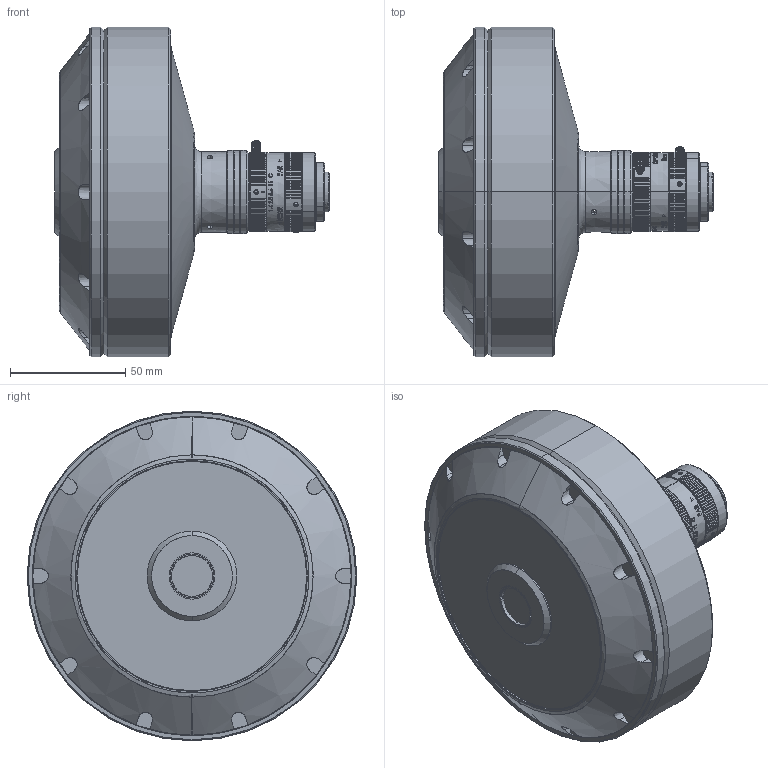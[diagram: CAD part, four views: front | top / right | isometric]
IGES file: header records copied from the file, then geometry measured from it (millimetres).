
Start section: SolidWorks IGES file using analytic representation for surfaces
Global section: file name: \\172.16.20.198\dati\R&D\01 archivio\DPXXXXX-X\DP71123-A_PCCD013.igs; native system: SolidWorks 2021; preprocessor: SolidWorks 2021; author: lrizzotto; date: 211207.172225; units: millimetre
Bounding box: 119.26 x 143 x 143 mm (x, y, z)
Surface area: 68831.6 mm2 (no closed solid volume)
Topology: 0 solids, 0 shells, 1140 faces, 11991 edges, 11991 vertices
Faces by surface type: bspline 573, revolution 567
